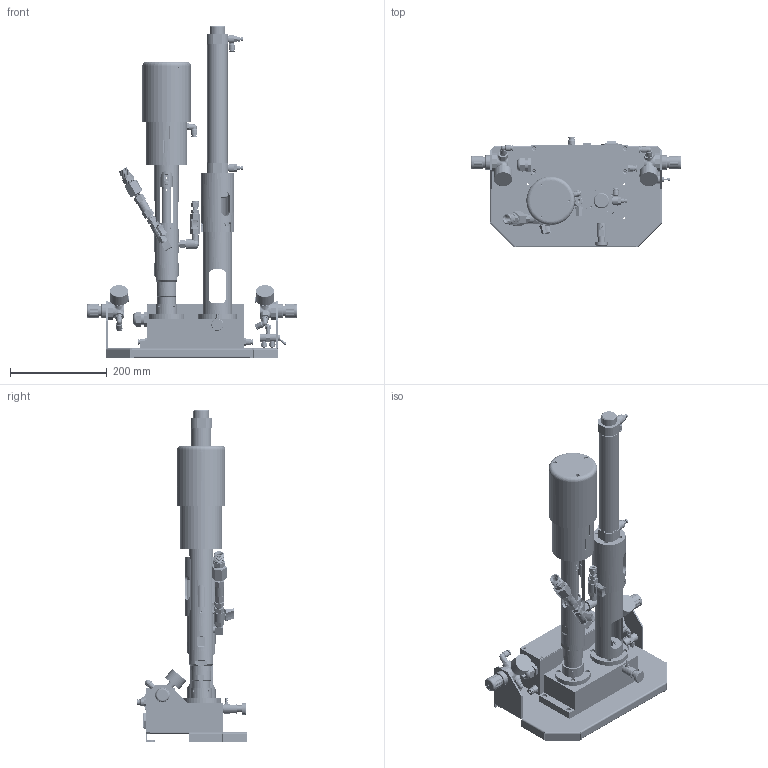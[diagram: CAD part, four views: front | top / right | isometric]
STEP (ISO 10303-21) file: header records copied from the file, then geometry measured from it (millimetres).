
FILE_DESCRIPTION((''),'2;1');
FILE_NAME('C:\6 Ecn Work In Process\ECN 2605 For 50 Bar Dispense Valve\1046901 Rev C High Pressure Cartridge Dispenser.stp','2011-02-16T10:53:21',('patch'),(''),'Autodesk Inventor 2011','Autodesk Inventor 2011','');
FILE_SCHEMA(('AUTOMOTIVE_DESIGN { 1 0 10303 214 1 1 1 1 }'));
Length unit declared in the file: millimetre
Products named in the file (91): 1046901 Rev C High Pressure Cartridge Dispenser; 1046901 High Pressure Cartridge Dispenser Main frame; 1046901 High Pressure Cartridge Dispenser R07-200-RGLA+18-013-211_Body- regulator; 1046901 High Pressure Cartridge Dispenser R07-200-RGLA+18-013-211_Bonnet; 1046901 High Pressure Cartridge Dispenser R07-200-RGLA+18-013-211_Knob; 1046901 High Pressure Cartridge Dispenser R07-200-RGLA+18-013-211_gauge; 1046901 High Pressure Cartridge Dispenser PL0601; 1046901 High Pressure Cartridge Dispenser Main block; 1046901 High Pressure Cartridge Dispenser E-4V switch; 1046901 High Pressure Cartridge Dispenser PH-06M5; 1046901 High Pressure Cartridge Dispenser PL06M5; 1046901 High Pressure Cartridge Dispenser Can pump connector; 1046901 High Pressure Cartridge Dispenser O-rings series G_KS_O-ring 41.2x2.65-G; 1046901 High Pressure Cartridge Dispenser O-rings series G_KS_O-ring 30x2.65-G; 1046901 High Pressure Cartridge Dispenser Plug; 1046901 High Pressure Cartridge Dispenser Cartridge connector; 1046901 High Pressure Cartridge Dispenser Spindle housing; 1046901 High Pressure Cartridge Dispenser Spindle; 1046901 High Pressure Cartridge Dispenser Bush; 1046901 High Pressure Cartridge Dispenser Connector; 1046901 High Pressure Cartridge Dispenser Housing pin; 1046901 High Pressure Cartridge Dispenser Adapter; 1046901 High Pressure Cartridge Dispenser O-rings series G_KS_O-ring 23x2.65-G; 1046901 High Pressure Cartridge Dispenser Cylinder head; 1046901 High Pressure Cartridge Dispenser Controller bracket; 1046901 High Pressure Cartridge Dispenser Manifold block; 1046901 High Pressure Cartridge Dispenser O-rings series A_KS_O-ring 4.8x1.9-A; 1046901 High Pressure Cartridge Dispenser cap tie road; 1046901 High Pressure Cartridge Dispenser O-rings series A_KS_O-ring 11.0x2.4-A; 1046901 High Pressure Cartridge Dispenser Solenoid_TZ511T-S3-KN-J_NewEra; 1046901 High Pressure Cartridge Dispenser Silencer; 1046901 High Pressure Cartridge Dispenser PCB guard plate; 1046901 High Pressure Cartridge Dispenser Control board; 1046901 High Pressure Cartridge Dispenser PC0601; 1046901 High Pressure Cartridge Dispenser Head tube; 1046901 High Pressure Cartridge Dispenser Can head case_1; 1046901 High Pressure Cartridge Dispenser Can head case_2; 1046901 High Pressure Cartridge Dispenser piston guide rod; 1046901 High Pressure Cartridge Dispenser Cylinder cover; 1046901 High Pressure Cartridge Dispenser O-rings series G_KS_O-ring 60x2.65-G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
Assembly tree (118 placements, depth 2):
  1046901 Rev C High Pressure Cartridge Dispenser
    1046901 High Pressure Cartridge Dispenser Main frame
    1046901 High Pressure Cartridge Dispenser R07-200-RGLA+18-013-211_Body- regulator  x2
    1046901 High Pressure Cartridge Dispenser R07-200-RGLA+18-013-211_Bonnet  x2
    1046901 High Pressure Cartridge Dispenser R07-200-RGLA+18-013-211_Knob  x2
    1046901 High Pressure Cartridge Dispenser R07-200-RGLA+18-013-211_gauge  x2
    1046901 High Pressure Cartridge Dispenser PL0601  x6
    1046901 High Pressure Cartridge Dispenser Main block
    1046901 High Pressure Cartridge Dispenser E-4V switch
    1046901 High Pressure Cartridge Dispenser PH-06M5  x2
    1046901 High Pressure Cartridge Dispenser PL06M5
    1046901 High Pressure Cartridge Dispenser Can pump connector
    1046901 High Pressure Cartridge Dispenser O-rings series G_KS_O-ring 41.2x2.65-G
    1046901 High Pressure Cartridge Dispenser O-rings series G_KS_O-ring 30x2.65-G  x2
    1046901 High Pressure Cartridge Dispenser Plug
    1046901 High Pressure Cartridge Dispenser Cartridge connector
    1046901 High Pressure Cartridge Dispenser Spindle housing
    1046901 High Pressure Cartridge Dispenser Spindle
    1046901 High Pressure Cartridge Dispenser Bush
    1046901 High Pressure Cartridge Dispenser Connector
    1046901 High Pressure Cartridge Dispenser Housing pin
    1046901 High Pressure Cartridge Dispenser Adapter
    1046901 High Pressure Cartridge Dispenser O-rings series G_KS_O-ring 23x2.65-G  x2
    1046901 High Pressure Cartridge Dispenser Cylinder head
    1046901 High Pressure Cartridge Dispenser Controller bracket
    1046901 High Pressure Cartridge Dispenser Manifold block
    1046901 High Pressure Cartridge Dispenser O-rings series A_KS_O-ring 4.8x1.9-A  x2
    1046901 High Pressure Cartridge Dispenser cap tie road  x3
    1046901 High Pressure Cartridge Dispenser O-rings series A_KS_O-ring 11.0x2.4-A  x2
    1046901 High Pressure Cartridge Dispenser Solenoid_TZ511T-S3-KN-J_NewEra
    1046901 High Pressure Cartridge Dispenser Silencer  x2
    1046901 High Pressure Cartridge Dispenser PCB guard plate
    1046901 High Pressure Cartridge Dispenser Control board
    1046901 High Pressure Cartridge Dispenser PC0601
    1046901 High Pressure Cartridge Dispenser Head tube
    1046901 High Pressure Cartridge Dispenser Can head case_1
    1046901 High Pressure Cartridge Dispenser Can head case_2
    1046901 High Pressure Cartridge Dispenser piston guide rod
    1046901 High Pressure Cartridge Dispenser Cylinder cover
    1046901 High Pressure Cartridge Dispenser O-rings series G_KS_O-ring 60x2.65-G
    1046901 High Pressure Cartridge Dispenser O-rings series A_KS_O-ring 24.7x3.5-A
    1046901 High Pressure Cartridge Dispenser Piston rod
    1046901 High Pressure Cartridge Dispenser Magnetic rubber
    1046901 High Pressure Cartridge Dispenser Magnet fix flange
    1046901 High Pressure Cartridge Dispenser O-rings series A_KS_O-ring 49.6x5.7-A
    1046901 High Pressure Cartridge Dispenser O-rings series A_KS_O-ring 17.8x2.4-A  x2
    1046901 High Pressure Cartridge Dispenser plunger
    1046901 High Pressure Cartridge Dispenser Split pin
    1046901 High Pressure Cartridge Dispenser Plunger B
    1046901 High Pressure Cartridge Dispenser Split pin 2
    1046901 High Pressure Cartridge Dispenser Middle rod
    1046901 High Pressure Cartridge Dispenser Middle rod cap
    1046901 High Pressure Cartridge Dispenser guide seal  x2
    1046901 High Pressure Cartridge Dispenser Spring seal  x4
    1046901 High Pressure Cartridge Dispenser Middle tube
    1046901 High Pressure Cartridge Dispenser Chamber
    1046901 High Pressure Cartridge Dispenser Teflon seal
    1046901 High Pressure Cartridge Dispenser BS seal
    1046901 High Pressure Cartridge Dispenser STUNPS12
    1046901 High Pressure Cartridge Dispenser SGPPEL8A
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Bounding box: 434.41 x 228.15 x 685 mm (x, y, z)
Volume: 22075.8 mm3; surface area: 1269042.2 mm2
Topology: 2 solids, 4421 shells, 4656 faces, 21324 edges, 20954 vertices
Faces by surface type: plane 1787, cylinder 1724, cone 749, bspline 259, torus 112, sphere 25
Full cylindrical faces by diameter (mm): 6.15 x1, 10.95 x1, 20.5 x9
Entity records: 252590 total; most frequent: CARTESIAN_POINT 96614, DIRECTION 29479, ORIENTED_EDGE 16859, EDGE_CURVE 16491, VERTEX_POINT 16309, AXIS2_PLACEMENT_3D 10875, VECTOR 7729, LINE 7729
